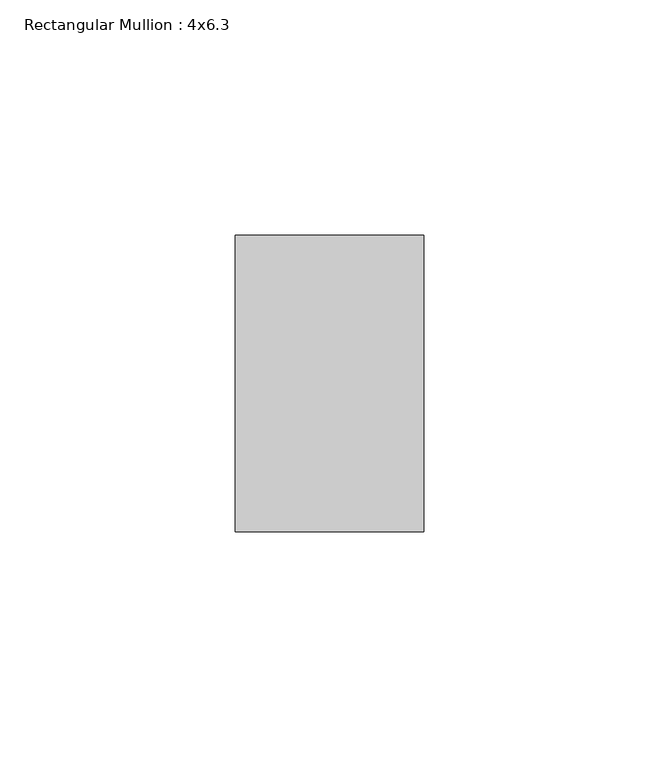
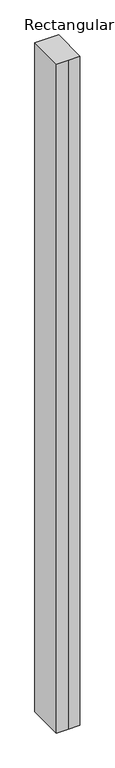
"""IFC4 building model written with IfcOpenShell, lengths in millimetres: member geometry, Rectangular Mullion : 4x6.3."""

from ifc_helpers import new_model, si_unit, frame, origin, place, context, project, spatial, polyline, outline, extrude, source, transform, mapped, element, save


def rectangular_mullion_4x6_3_46696fdb(model_context):
    return source(origin(), model_context, "Body", "SweptSolid", [
        extrude(outline(polyline([(-20.0, 20.0), (-20.0, 83.0), (20.0, 83.0), (20.0, 20.0), (0.0, 20.0), (-20.0, 20.0)])), frame((0.0, 0.0, -1198.7517414), z_axis=(0.0, 0.0, 1.0), x_axis=(1.0, 0.0, 0.0)), (0.0, 0.0, 1.0), 1198.7517414),
    ])


if __name__ == "__main__":
    model = new_model("IFC4")
    model_context = context("Model", 3, world=origin())
    ifc_project = project(units=[si_unit("LENGTHUNIT", "METRE", prefix="MILLI")], contexts=[model_context])
    site = spatial("IfcSite", under=ifc_project)
    building = spatial("IfcBuilding", under=site)
    placement = place(None, origin())
    rectangular_mullion_4x6_3_shape = rectangular_mullion_4x6_3_46696fdb(model_context)
    element("IfcMember", 1, ObjectType="Rectangular Mullion : 4x6.3", at=placement, inside=building, context=model_context, shape_type="MappedRepresentation", body=[
        mapped(rectangular_mullion_4x6_3_shape, transform((0.0, 0.0, 0.0), x_axis=(1.0, 0.0, 0.0), y_axis=(0.0, 1.0, 0.0), z_axis=(0.0, 0.0, 1.0))),
    ])
    save(model, "model.ifc")
